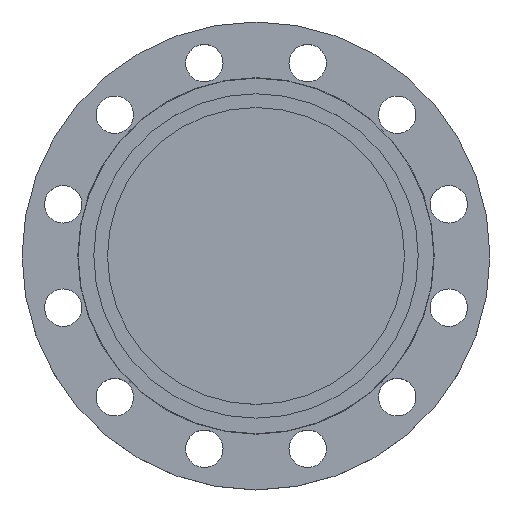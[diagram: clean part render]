
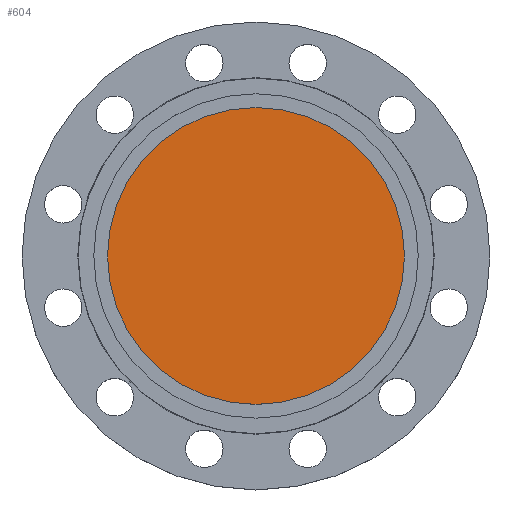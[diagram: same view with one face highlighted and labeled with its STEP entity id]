
A CAD part, top view. The second image highlights one B-rep face of the part: STEP entity #604.
In plain terms, the highlighted planar face has unit normal (0, 0, 1).
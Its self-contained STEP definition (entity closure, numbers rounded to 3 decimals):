
#20 = DIRECTION ( 'NONE',  ( -1., 0., 0. ) ) ;
#67 = EDGE_LOOP ( 'NONE', ( #1116, #278 ) ) ;
#71 = AXIS2_PLACEMENT_3D ( 'NONE', #362, #787, #1089 ) ;
#233 = EDGE_CURVE ( 'NONE', #739, #658, #551, .T. ) ;
#278 = ORIENTED_EDGE ( 'NONE', *, *, #388, .F. ) ;
#362 = CARTESIAN_POINT ( 'NONE',  ( 0., 0., 0. ) ) ;
#388 = EDGE_CURVE ( 'NONE', #658, #739, #911, .T. ) ;
#428 = AXIS2_PLACEMENT_3D ( 'NONE', #644, #978, #20 ) ;
#551 = CIRCLE ( 'NONE', #428, 119. ) ;
#565 = CARTESIAN_POINT ( 'NONE',  ( 0., 0., 0. ) ) ;
#604 = ADVANCED_FACE ( 'NONE', ( #862 ), #1165, .T. ) ;
#644 = CARTESIAN_POINT ( 'NONE',  ( 0., 0., 0. ) ) ;
#649 = CARTESIAN_POINT ( 'NONE',  ( -119., 0., 0. ) ) ;
#658 = VERTEX_POINT ( 'NONE', #961 ) ;
#735 = AXIS2_PLACEMENT_3D ( 'NONE', #565, #929, #1215 ) ;
#739 = VERTEX_POINT ( 'NONE', #649 ) ;
#787 = DIRECTION ( 'NONE',  ( 0., 0., 1. ) ) ;
#862 = FACE_OUTER_BOUND ( 'NONE', #67, .T. ) ;
#911 = CIRCLE ( 'NONE', #735, 119. ) ;
#929 = DIRECTION ( 'NONE',  ( 0., 0., -1. ) ) ;
#961 = CARTESIAN_POINT ( 'NONE',  ( 119., 0., 0. ) ) ;
#978 = DIRECTION ( 'NONE',  ( 0., 0., -1. ) ) ;
#1089 = DIRECTION ( 'NONE',  ( 1., 0., 0. ) ) ;
#1116 = ORIENTED_EDGE ( 'NONE', *, *, #233, .F. ) ;
#1165 = PLANE ( 'NONE',  #71 ) ;
#1215 = DIRECTION ( 'NONE',  ( -1., 0., 0. ) ) ;
